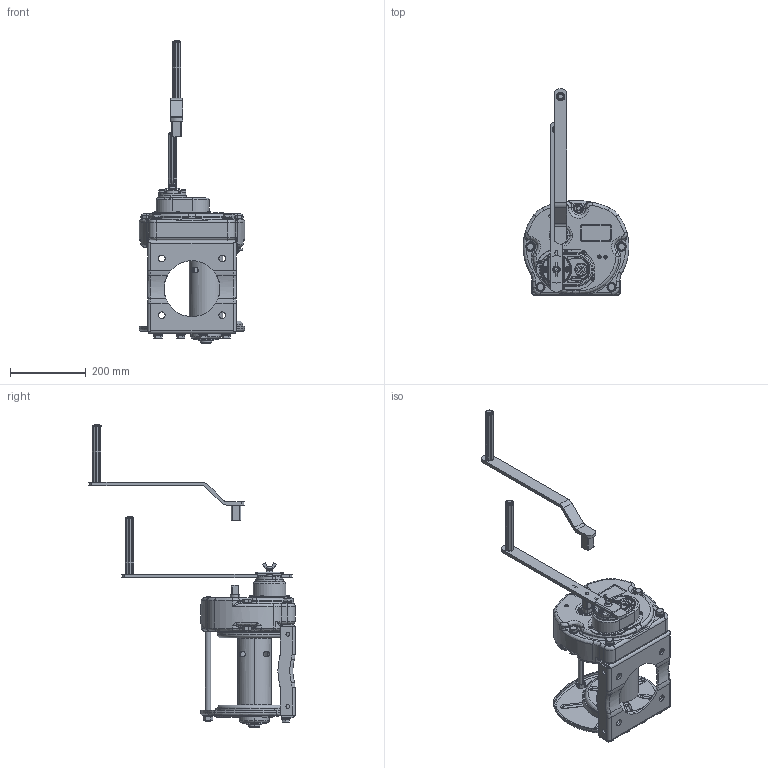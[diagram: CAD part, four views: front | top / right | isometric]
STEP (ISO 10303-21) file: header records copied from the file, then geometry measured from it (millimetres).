
FILE_DESCRIPTION( (''), '2;1');
FILE_NAME ('GM-20-SIC.stp','2023-12-21T17:16:10',(''),(''),'spGate 19.8.2 (****-****-****-****)','','');
FILE_SCHEMA (('AUTOMOTIVE_DESIGN'));
Length unit declared in the file: millimetre
Products named in the file (4): Assembly; GM-20-SIC-prt0; GM-20-SIC-prt1; GM-20-SIC-prt2
Assembly tree (3 placements, depth 2):
  Assembly
    GM-20-SIC-prt0
    GM-20-SIC-prt1
    GM-20-SIC-prt2
Bounding box: 279.93 x 545.43 x 801.4 mm (x, y, z)
Volume: 365745.5 mm3; surface area: 1019153.2 mm2
Topology: 2 solids, 3 shells, 2938 faces, 7652 edges, 4804 vertices
Faces by surface type: plane 1382, cylinder 946, bspline 512, sphere 98
Entity records: 161951 total; most frequent: CARTESIAN_POINT 31560, ORIENTED_EDGE 15149, DIRECTION 14402, COLOUR_RGB 10516, PRESENTATION_STYLE_ASSIGNMENT 10516, STYLED_ITEM 10516, EDGE_CURVE 7575, DRAUGHTING_PRE_DEFINED_CURVE_FONT 7575
